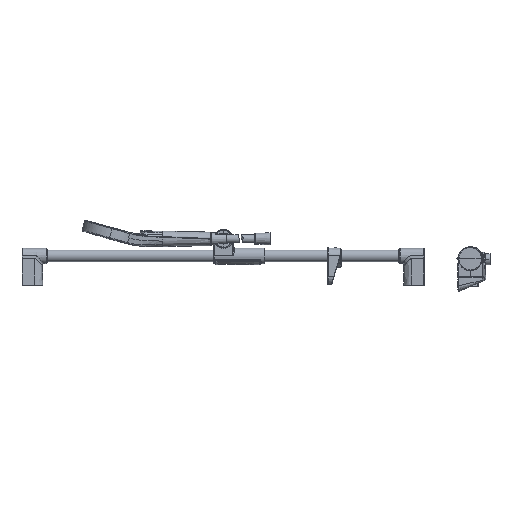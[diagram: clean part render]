
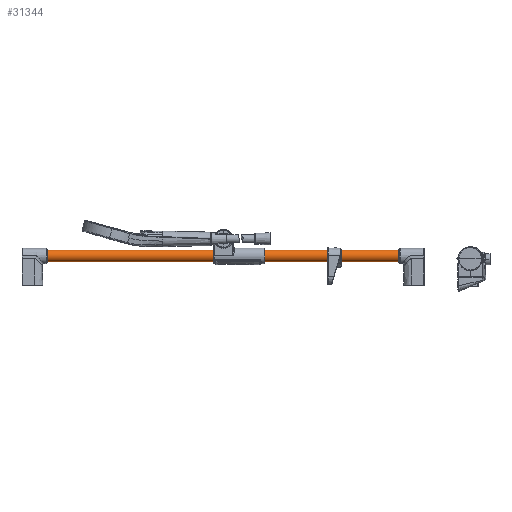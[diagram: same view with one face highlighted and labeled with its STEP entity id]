
A CAD part, left-side view. The second image highlights one B-rep face of the part: STEP entity #31344.
In plain terms, the highlighted cylindrical face has radius 10.95 mm (diameter 21.9 mm), a partial arc.
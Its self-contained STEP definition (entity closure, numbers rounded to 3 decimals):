
#1764 = CYLINDRICAL_SURFACE ( 'NONE', #34256, 10.95 ) ;
#2065 = DIRECTION ( 'NONE',  ( 0., 0., -1. ) ) ;
#4388 = ORIENTED_EDGE ( 'NONE', *, *, #27725, .F. ) ;
#6430 = ORIENTED_EDGE ( 'NONE', *, *, #26057, .T. ) ;
#7680 = CARTESIAN_POINT ( 'NONE',  ( 0., 343.7, -10.95 ) ) ;
#8392 = CARTESIAN_POINT ( 'NONE',  ( 0., 343.7, 0. ) ) ;
#9788 = CARTESIAN_POINT ( 'NONE',  ( 0., -416.3, 0. ) ) ;
#10122 = CARTESIAN_POINT ( 'NONE',  ( 0., 343.7, 10.95 ) ) ;
#11990 = AXIS2_PLACEMENT_3D ( 'NONE', #8392, #40030, #2065 ) ;
#15487 = CIRCLE ( 'NONE', #27318, 10.95 ) ;
#16408 = DIRECTION ( 'NONE',  ( 0., -1., 0. ) ) ;
#21213 = VERTEX_POINT ( 'NONE', #39906 ) ;
#21388 = CARTESIAN_POINT ( 'NONE',  ( 0., -416.3, -10.95 ) ) ;
#22208 = VERTEX_POINT ( 'NONE', #21388 ) ;
#23329 = CARTESIAN_POINT ( 'NONE',  ( 0., -416.3, 10.95 ) ) ;
#26057 = EDGE_CURVE ( 'NONE', #21213, #22208, #78226, .T. ) ;
#27318 = AXIS2_PLACEMENT_3D ( 'NONE', #9788, #78996, #47765 ) ;
#27725 = EDGE_CURVE ( 'NONE', #33015, #22208, #15487, .T. ) ;
#31344 = ADVANCED_FACE ( 'NONE', ( #80053 ), #1764, .T. ) ;
#31425 = ORIENTED_EDGE ( 'NONE', *, *, #40202, .T. ) ;
#33015 = VERTEX_POINT ( 'NONE', #23329 ) ;
#34051 = DIRECTION ( 'NONE',  ( 0., -1., 0. ) ) ;
#34256 = AXIS2_PLACEMENT_3D ( 'NONE', #52971, #34051, #58191 ) ;
#39906 = CARTESIAN_POINT ( 'NONE',  ( 0., 343.7, -10.95 ) ) ;
#40030 = DIRECTION ( 'NONE',  ( 0., -1., 0. ) ) ;
#40202 = EDGE_CURVE ( 'NONE', #46202, #21213, #80795, .T. ) ;
#41736 = CARTESIAN_POINT ( 'NONE',  ( 0., 343.7, 10.95 ) ) ;
#44662 = EDGE_CURVE ( 'NONE', #46202, #33015, #72303, .T. ) ;
#46202 = VERTEX_POINT ( 'NONE', #41736 ) ;
#47765 = DIRECTION ( 'NONE',  ( 0., 0., -1. ) ) ;
#52971 = CARTESIAN_POINT ( 'NONE',  ( 0., 343.7, 0. ) ) ;
#55672 = VECTOR ( 'NONE', #57720, 1000. ) ;
#57720 = DIRECTION ( 'NONE',  ( 0., -1., 0. ) ) ;
#58191 = DIRECTION ( 'NONE',  ( 0., 0., 1. ) ) ;
#59557 = VECTOR ( 'NONE', #16408, 1000. ) ;
#66143 = ORIENTED_EDGE ( 'NONE', *, *, #44662, .F. ) ;
#70115 = EDGE_LOOP ( 'NONE', ( #31425, #6430, #4388, #66143 ) ) ;
#72303 = LINE ( 'NONE', #10122, #59557 ) ;
#78226 = LINE ( 'NONE', #7680, #55672 ) ;
#78996 = DIRECTION ( 'NONE',  ( 0., -1., 0. ) ) ;
#80053 = FACE_OUTER_BOUND ( 'NONE', #70115, .T. ) ;
#80795 = CIRCLE ( 'NONE', #11990, 10.95 ) ;
